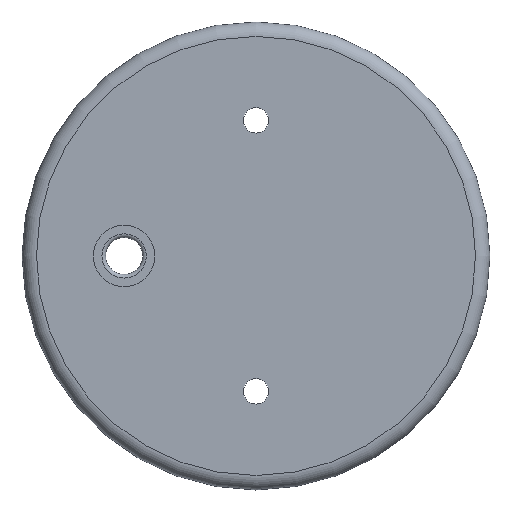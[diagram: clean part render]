
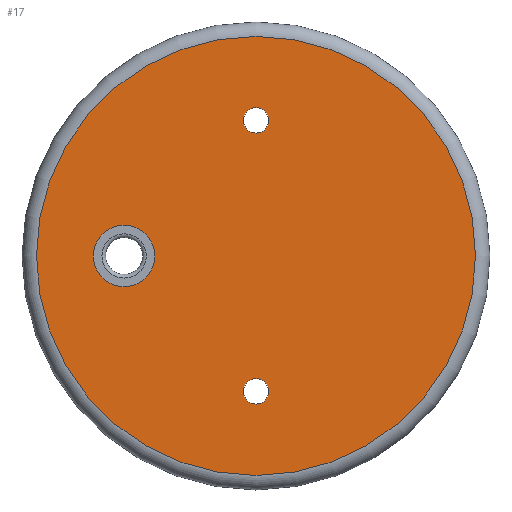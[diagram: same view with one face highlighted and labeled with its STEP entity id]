
A CAD part, top view. The second image highlights one B-rep face of the part: STEP entity #17.
In plain terms, the highlighted planar face has unit normal (0, 0, 1).
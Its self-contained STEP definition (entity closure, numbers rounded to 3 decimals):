
#17 = ADVANCED_FACE('',(#18,#54,#89,#124),#31,.T.);
#18 = FACE_BOUND('',#19,.F.);
#19 = EDGE_LOOP('',(#20));
#20 = ORIENTED_EDGE('',*,*,#21,.F.);
#21 = EDGE_CURVE('',#22,#22,#24,.T.);
#22 = VERTEX_POINT('',#23);
#23 = CARTESIAN_POINT('',(121.5,0.,0.));
#24 = SURFACE_CURVE('',#25,(#30,#42),.PCURVE_S1.);
#25 = CIRCLE('',#26,121.5);
#26 = AXIS2_PLACEMENT_3D('',#27,#28,#29);
#27 = CARTESIAN_POINT('',(0.,0.,0.));
#28 = DIRECTION('',(0.,0.,1.));
#29 = DIRECTION('',(1.,0.,-0.));
#30 = PCURVE('',#31,#36);
#31 = PLANE('',#32);
#32 = AXIS2_PLACEMENT_3D('',#33,#34,#35);
#33 = CARTESIAN_POINT('',(0.,0.,0.));
#34 = DIRECTION('',(0.,0.,1.));
#35 = DIRECTION('',(1.,0.,-0.));
#36 = DEFINITIONAL_REPRESENTATION('',(#37),#41);
#37 = CIRCLE('',#38,121.5);
#38 = AXIS2_PLACEMENT_2D('',#39,#40);
#39 = CARTESIAN_POINT('',(0.,0.));
#40 = DIRECTION('',(1.,0.));
#41 = ( GEOMETRIC_REPRESENTATION_CONTEXT(2) 
PARAMETRIC_REPRESENTATION_CONTEXT() REPRESENTATION_CONTEXT('2D SPACE',''
  ) );
#42 = PCURVE('',#43,#48);
#43 = TOROIDAL_SURFACE('',#44,121.5,8.);
#44 = AXIS2_PLACEMENT_3D('',#45,#46,#47);
#45 = CARTESIAN_POINT('',(0.,0.,-8.));
#46 = DIRECTION('',(-0.,-0.,-1.));
#47 = DIRECTION('',(1.,0.,-0.));
#48 = DEFINITIONAL_REPRESENTATION('',(#49),#53);
#49 = LINE('',#50,#51);
#50 = CARTESIAN_POINT('',(6.283,4.712));
#51 = VECTOR('',#52,1.);
#52 = DIRECTION('',(-1.,0.));
#53 = ( GEOMETRIC_REPRESENTATION_CONTEXT(2) 
PARAMETRIC_REPRESENTATION_CONTEXT() REPRESENTATION_CONTEXT('2D SPACE',''
  ) );
#54 = FACE_BOUND('',#55,.F.);
#55 = EDGE_LOOP('',(#56));
#56 = ORIENTED_EDGE('',*,*,#57,.F.);
#57 = EDGE_CURVE('',#58,#58,#60,.T.);
#58 = VERTEX_POINT('',#59);
#59 = CARTESIAN_POINT('',(7.,-75.,0.));
#60 = SURFACE_CURVE('',#61,(#66,#77),.PCURVE_S1.);
#61 = CIRCLE('',#62,7.);
#62 = AXIS2_PLACEMENT_3D('',#63,#64,#65);
#63 = CARTESIAN_POINT('',(0.,-75.,0.));
#64 = DIRECTION('',(0.,0.,-1.));
#65 = DIRECTION('',(1.,0.,0.));
#66 = PCURVE('',#31,#67);
#67 = DEFINITIONAL_REPRESENTATION('',(#68),#76);
#68 = ( BOUNDED_CURVE() B_SPLINE_CURVE(2,(#69,#70,#71,#72,#73,#74,#75),
.UNSPECIFIED.,.T.,.F.) B_SPLINE_CURVE_WITH_KNOTS((1,2,2,2,2,1),(
    -2.094,0.,2.094,4.189,6.283,
8.378),.UNSPECIFIED.) CURVE() GEOMETRIC_REPRESENTATION_ITEM() 
RATIONAL_B_SPLINE_CURVE((1.,0.5,1.,0.5,1.,0.5,1.)) REPRESENTATION_ITEM(
  '') );
#69 = CARTESIAN_POINT('',(7.,-75.));
#70 = CARTESIAN_POINT('',(7.,-87.124));
#71 = CARTESIAN_POINT('',(-3.5,-81.062));
#72 = CARTESIAN_POINT('',(-14.,-75.));
#73 = CARTESIAN_POINT('',(-3.5,-68.938));
#74 = CARTESIAN_POINT('',(7.,-62.876));
#75 = CARTESIAN_POINT('',(7.,-75.));
#76 = ( GEOMETRIC_REPRESENTATION_CONTEXT(2) 
PARAMETRIC_REPRESENTATION_CONTEXT() REPRESENTATION_CONTEXT('2D SPACE',''
  ) );
#77 = PCURVE('',#78,#83);
#78 = CYLINDRICAL_SURFACE('',#79,7.);
#79 = AXIS2_PLACEMENT_3D('',#80,#81,#82);
#80 = CARTESIAN_POINT('',(0.,-75.,-5.));
#81 = DIRECTION('',(-0.,-0.,-1.));
#82 = DIRECTION('',(1.,0.,0.));
#83 = DEFINITIONAL_REPRESENTATION('',(#84),#88);
#84 = LINE('',#85,#86);
#85 = CARTESIAN_POINT('',(0.,-5.));
#86 = VECTOR('',#87,1.);
#87 = DIRECTION('',(1.,-0.));
#88 = ( GEOMETRIC_REPRESENTATION_CONTEXT(2) 
PARAMETRIC_REPRESENTATION_CONTEXT() REPRESENTATION_CONTEXT('2D SPACE',''
  ) );
#89 = FACE_BOUND('',#90,.F.);
#90 = EDGE_LOOP('',(#91));
#91 = ORIENTED_EDGE('',*,*,#92,.F.);
#92 = EDGE_CURVE('',#93,#93,#95,.T.);
#93 = VERTEX_POINT('',#94);
#94 = CARTESIAN_POINT('',(7.,75.,0.));
#95 = SURFACE_CURVE('',#96,(#101,#112),.PCURVE_S1.);
#96 = CIRCLE('',#97,7.);
#97 = AXIS2_PLACEMENT_3D('',#98,#99,#100);
#98 = CARTESIAN_POINT('',(0.,75.,0.));
#99 = DIRECTION('',(0.,0.,-1.));
#100 = DIRECTION('',(1.,0.,0.));
#101 = PCURVE('',#31,#102);
#102 = DEFINITIONAL_REPRESENTATION('',(#103),#111);
#103 = ( BOUNDED_CURVE() B_SPLINE_CURVE(2,(#104,#105,#106,#107,#108,#109
,#110),.UNSPECIFIED.,.T.,.F.) B_SPLINE_CURVE_WITH_KNOTS((1,2,2,2,2,1),(
    -2.094,0.,2.094,4.189,6.283,
8.378),.UNSPECIFIED.) CURVE() GEOMETRIC_REPRESENTATION_ITEM() 
RATIONAL_B_SPLINE_CURVE((1.,0.5,1.,0.5,1.,0.5,1.)) REPRESENTATION_ITEM(
  '') );
#104 = CARTESIAN_POINT('',(7.,75.));
#105 = CARTESIAN_POINT('',(7.,62.876));
#106 = CARTESIAN_POINT('',(-3.5,68.938));
#107 = CARTESIAN_POINT('',(-14.,75.));
#108 = CARTESIAN_POINT('',(-3.5,81.062));
#109 = CARTESIAN_POINT('',(7.,87.124));
#110 = CARTESIAN_POINT('',(7.,75.));
#111 = ( GEOMETRIC_REPRESENTATION_CONTEXT(2) 
PARAMETRIC_REPRESENTATION_CONTEXT() REPRESENTATION_CONTEXT('2D SPACE',''
  ) );
#112 = PCURVE('',#113,#118);
#113 = CYLINDRICAL_SURFACE('',#114,7.);
#114 = AXIS2_PLACEMENT_3D('',#115,#116,#117);
#115 = CARTESIAN_POINT('',(0.,75.,-5.));
#116 = DIRECTION('',(-0.,-0.,-1.));
#117 = DIRECTION('',(1.,0.,0.));
#118 = DEFINITIONAL_REPRESENTATION('',(#119),#123);
#119 = LINE('',#120,#121);
#120 = CARTESIAN_POINT('',(0.,-5.));
#121 = VECTOR('',#122,1.);
#122 = DIRECTION('',(1.,-0.));
#123 = ( GEOMETRIC_REPRESENTATION_CONTEXT(2) 
PARAMETRIC_REPRESENTATION_CONTEXT() REPRESENTATION_CONTEXT('2D SPACE',''
  ) );
#124 = FACE_BOUND('',#125,.F.);
#125 = EDGE_LOOP('',(#126));
#126 = ORIENTED_EDGE('',*,*,#127,.F.);
#127 = EDGE_CURVE('',#128,#128,#130,.T.);
#128 = VERTEX_POINT('',#129);
#129 = CARTESIAN_POINT('',(-56.,0.,0.));
#130 = SURFACE_CURVE('',#131,(#136,#147),.PCURVE_S1.);
#131 = CIRCLE('',#132,17.);
#132 = AXIS2_PLACEMENT_3D('',#133,#134,#135);
#133 = CARTESIAN_POINT('',(-73.,0.,0.));
#134 = DIRECTION('',(0.,0.,-1.));
#135 = DIRECTION('',(1.,0.,0.));
#136 = PCURVE('',#31,#137);
#137 = DEFINITIONAL_REPRESENTATION('',(#138),#146);
#138 = ( BOUNDED_CURVE() B_SPLINE_CURVE(2,(#139,#140,#141,#142,#143,#144
,#145),.UNSPECIFIED.,.T.,.F.) B_SPLINE_CURVE_WITH_KNOTS((1,2,2,2,2,1),(
    -2.094,0.,2.094,4.189,6.283,
8.378),.UNSPECIFIED.) CURVE() GEOMETRIC_REPRESENTATION_ITEM() 
RATIONAL_B_SPLINE_CURVE((1.,0.5,1.,0.5,1.,0.5,1.)) REPRESENTATION_ITEM(
  '') );
#139 = CARTESIAN_POINT('',(-56.,0.));
#140 = CARTESIAN_POINT('',(-56.,-29.445));
#141 = CARTESIAN_POINT('',(-81.5,-14.722));
#142 = CARTESIAN_POINT('',(-107.,0.));
#143 = CARTESIAN_POINT('',(-81.5,14.722));
#144 = CARTESIAN_POINT('',(-56.,29.445));
#145 = CARTESIAN_POINT('',(-56.,0.));
#146 = ( GEOMETRIC_REPRESENTATION_CONTEXT(2) 
PARAMETRIC_REPRESENTATION_CONTEXT() REPRESENTATION_CONTEXT('2D SPACE',''
  ) );
#147 = PCURVE('',#148,#153);
#148 = CYLINDRICAL_SURFACE('',#149,17.);
#149 = AXIS2_PLACEMENT_3D('',#150,#151,#152);
#150 = CARTESIAN_POINT('',(-73.,0.,-5.));
#151 = DIRECTION('',(-0.,-0.,-1.));
#152 = DIRECTION('',(1.,0.,0.));
#153 = DEFINITIONAL_REPRESENTATION('',(#154),#158);
#154 = LINE('',#155,#156);
#155 = CARTESIAN_POINT('',(0.,-5.));
#156 = VECTOR('',#157,1.);
#157 = DIRECTION('',(1.,-0.));
#158 = ( GEOMETRIC_REPRESENTATION_CONTEXT(2) 
PARAMETRIC_REPRESENTATION_CONTEXT() REPRESENTATION_CONTEXT('2D SPACE',''
  ) );
